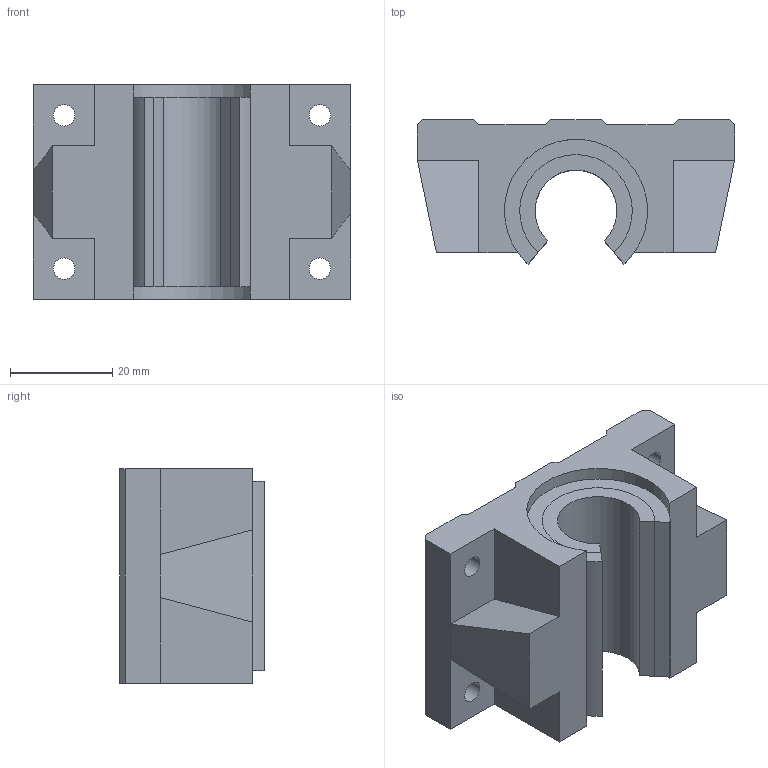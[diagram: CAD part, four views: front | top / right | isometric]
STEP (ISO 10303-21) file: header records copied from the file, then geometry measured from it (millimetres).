
FILE_DESCRIPTION((''),'2;1');
FILE_NAME('C:\Documents and Settings\ｿﾀﾀ蠑ｷ1\ｹﾙﾅﾁ ﾈｭｸ饅\ｺﾎﾇｰﾆﾄﾀﾏ\ﾁｦﾇｰ\TBR__UUA\TBR6UU.stp','2005-06-15T17:36:04',('ｿﾀﾀ蠑ｷ1'),(''),'Autodesk Inventor 9','Autodesk Inventor 9','');
FILE_SCHEMA(('AUTOMOTIVE_DESIGN { 1 0 10303 214 1 1 1 1 }'));
Length unit declared in the file: millimetre
Products named in the file (1): TBR__
Bounding box: 62 x 28.27 x 42 mm (x, y, z)
Volume: 42352.4 mm3; surface area: 11907.6 mm2
Topology: 1 solids, 1 shells, 55 faces, 147 edges, 94 vertices
Faces by surface type: plane 33, bspline 14, cylinder 8
Entity records: 1842 total; most frequent: CARTESIAN_POINT 451, ORIENTED_EDGE 294, DIRECTION 265, EDGE_CURVE 147, VECTOR 113, LINE 113, VERTEX_POINT 94, AXIS2_PLACEMENT_3D 76
